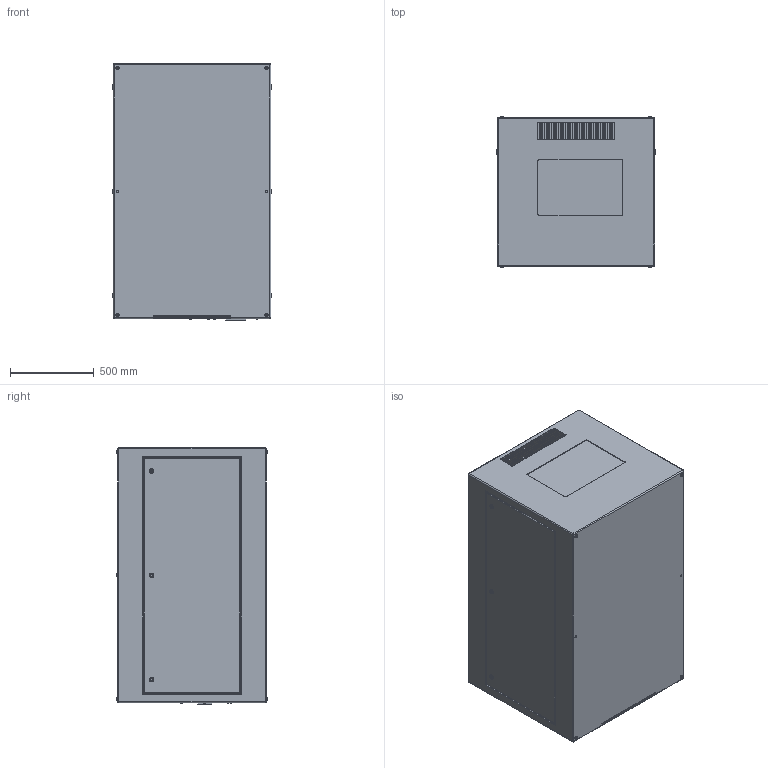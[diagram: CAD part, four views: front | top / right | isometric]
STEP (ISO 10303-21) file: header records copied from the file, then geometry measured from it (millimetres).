
FILE_DESCRIPTION (( 'STEP AP214' ), '1' );
FILE_NAME ('Zen 57.324.L R11 Landscape Hush Enclosure.STEP', '2021-04-23T00:28:46', ( '' ), ( '' ), 'SwSTEP 2.0', 'SolidWorks 2020', '' );
FILE_SCHEMA (( 'AUTOMOTIVE_DESIGN' ));
Length unit declared in the file: inch
Products named in the file (1): Zen 57.324.L R11 Landscape Hush Enclosure
Bounding box: 952.5 x 903.73 x 1531.62 mm (x, y, z)
Volume: 1270748184.2 mm3; surface area: 7857337.8 mm2
Topology: 1 solids, 1 shells, 1125 faces, 2838 edges, 1746 vertices
Faces by surface type: plane 515, cylinder 484, sphere 74, torus 52
Entity records: 36313 total; most frequent: DIRECTION 6040, CARTESIAN_POINT 5684, ORIENTED_EDGE 5528, EDGE_CURVE 2764, AXIS2_PLACEMENT_3D 2166, VERTEX_POINT 1746, VECTOR 1708, LINE 1708
